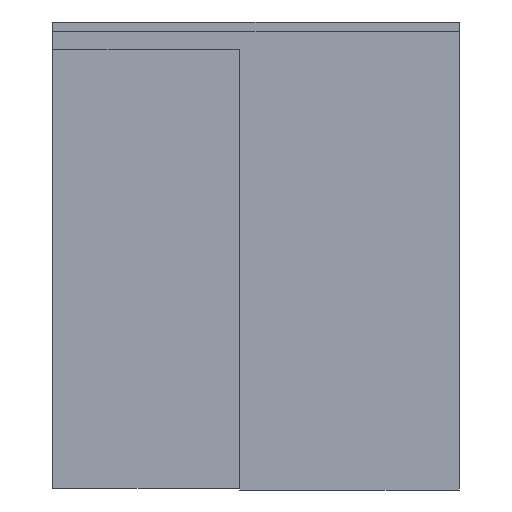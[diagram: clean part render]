
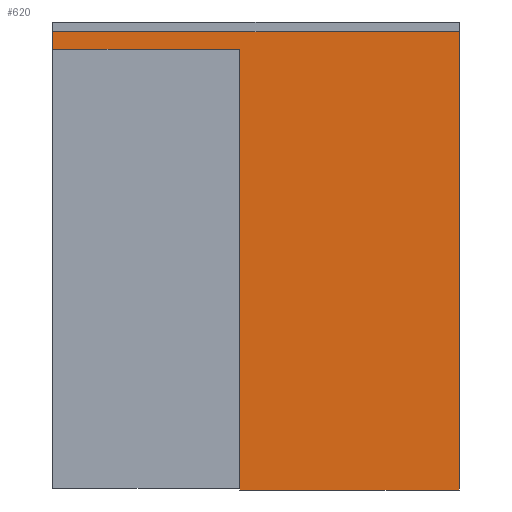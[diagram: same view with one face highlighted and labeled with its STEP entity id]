
A CAD part, front view. The second image highlights one B-rep face of the part: STEP entity #620.
In plain terms, the highlighted planar face has unit normal (0, -1, 0).
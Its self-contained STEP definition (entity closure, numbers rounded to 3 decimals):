
#620=ADVANCED_FACE('',(#1524),#1525,.F.);
#1524=FACE_OUTER_BOUND('',#2749,.T.);
#1525=PLANE('',#2750);
#2749=EDGE_LOOP('',(#4525,#4526,#4527,#4528,#4529,#4530));
#2750=AXIS2_PLACEMENT_3D('',#4531,#4532,#4533);
#4525=ORIENTED_EDGE('',*,*,#7584,.T.);
#4526=ORIENTED_EDGE('',*,*,#7574,.F.);
#4527=ORIENTED_EDGE('',*,*,#7578,.F.);
#4528=ORIENTED_EDGE('',*,*,#7582,.T.);
#4529=ORIENTED_EDGE('',*,*,#7585,.F.);
#4530=ORIENTED_EDGE('',*,*,#7586,.F.);
#4531=CARTESIAN_POINT('',(0.,-46.5,2333.0));
#4532=DIRECTION('',(0.0,1.0,-0.0));
#4533=DIRECTION('',(0.0,0.0,1.0));
#7574=EDGE_CURVE('',#9152,#9147,#9154,.T.);
#7578=EDGE_CURVE('',#9158,#9152,#9160,.T.);
#7582=EDGE_CURVE('',#9158,#9164,#9166,.T.);
#7584=EDGE_CURVE('',#9168,#9147,#9169,.T.);
#7585=EDGE_CURVE('',#9170,#9164,#9171,.T.);
#7586=EDGE_CURVE('',#9168,#9170,#9172,.T.);
#9147=VERTEX_POINT('',#11439);
#9152=VERTEX_POINT('',#11446);
#9154=LINE('',#11449,#11450);
#9158=VERTEX_POINT('',#11455);
#9160=LINE('',#11458,#11459);
#9164=VERTEX_POINT('',#11464);
#9166=LINE('',#11467,#11468);
#9168=VERTEX_POINT('',#11470);
#9169=LINE('',#11471,#11472);
#9170=VERTEX_POINT('',#11473);
#9171=LINE('',#11474,#11475);
#9172=LINE('',#11476,#11477);
#11439=CARTESIAN_POINT('',(965.,-46.5,2277.0));
#11446=CARTESIAN_POINT('',(965.,-46.5,0.0));
#11449=CARTESIAN_POINT('',(965.,-46.5,7.0));
#11450=VECTOR('',#14043,1.0);
#11455=CARTESIAN_POINT('',(2100.0,-46.5,0.0));
#11458=CARTESIAN_POINT('',(1277.5,-46.5,0.0));
#11459=VECTOR('',#14046,1.0);
#11464=CARTESIAN_POINT('',(2100.0,-46.5,2368.0));
#11467=CARTESIAN_POINT('',(2100.0,-46.5,7.0));
#11468=VECTOR('',#14049,1.0);
#11470=CARTESIAN_POINT('',(0.,-46.5,2277.0));
#11471=CARTESIAN_POINT('',(0.,-46.5,2277.0));
#11472=VECTOR('',#14050,1.0);
#11473=CARTESIAN_POINT('',(0.,-46.5,2368.0));
#11474=CARTESIAN_POINT('',(1270.0,-46.5,2368.0));
#11475=VECTOR('',#14051,1.0);
#11476=CARTESIAN_POINT('',(0.,-46.5,2301.0));
#11477=VECTOR('',#14052,1.0);
#14043=DIRECTION('',(0.0,0.0,1.0));
#14046=DIRECTION('',(-1.0,0.0,0.0));
#14049=DIRECTION('',(0.0,0.0,1.0));
#14050=DIRECTION('',(1.0,0.0,0.0));
#14051=DIRECTION('',(1.0,0.0,0.0));
#14052=DIRECTION('',(0.0,0.0,1.0));
